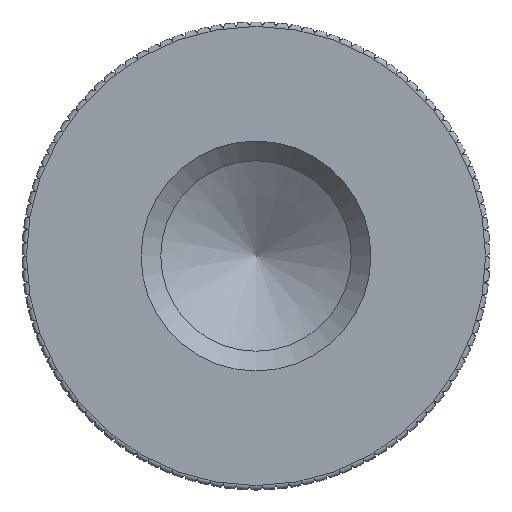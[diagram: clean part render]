
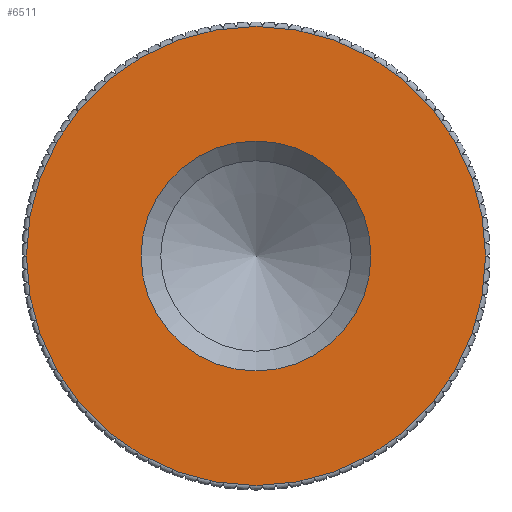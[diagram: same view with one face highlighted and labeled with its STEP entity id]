
A CAD part, front view. The second image highlights one B-rep face of the part: STEP entity #6511.
In plain terms, the highlighted planar face has unit normal (0, -1, 0).
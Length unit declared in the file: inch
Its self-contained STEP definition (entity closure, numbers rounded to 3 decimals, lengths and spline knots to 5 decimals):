
#19=FACE_BOUND('',#1483,.T.);
#686=PLANE('',#7104);
#1138=FACE_OUTER_BOUND('',#1482,.T.);
#1482=EDGE_LOOP('',(#6132,#6133));
#1483=EDGE_LOOP('',(#6134,#6135));
#2166=CIRCLE('',#6539,0.156);
#2167=CIRCLE('',#6540,0.156);
#2284=CIRCLE('',#6662,0.3115);
#2397=CIRCLE('',#6775,0.3115);
#2416=VERTEX_POINT('',#8660);
#2417=VERTEX_POINT('',#8661);
#2756=VERTEX_POINT('',#11348);
#2757=VERTEX_POINT('',#11349);
#3102=EDGE_CURVE('',#2416,#2417,#2166,.T.);
#3103=EDGE_CURVE('',#2417,#2416,#2167,.T.);
#3447=EDGE_CURVE('',#2756,#2757,#2284,.T.);
#3778=EDGE_CURVE('',#2757,#2756,#2397,.T.);
#6132=ORIENTED_EDGE('',*,*,#3447,.F.);
#6133=ORIENTED_EDGE('',*,*,#3778,.F.);
#6134=ORIENTED_EDGE('',*,*,#3102,.T.);
#6135=ORIENTED_EDGE('',*,*,#3103,.T.);
#6511=ADVANCED_FACE('',(#1138,#19),#686,.T.);
#6539=AXIS2_PLACEMENT_3D('',#8662,#7139,#7140);
#6540=AXIS2_PLACEMENT_3D('',#8663,#7141,#7142);
#6662=AXIS2_PLACEMENT_3D('',#11350,#7390,#7391);
#6775=AXIS2_PLACEMENT_3D('',#13971,#7616,#7617);
#7104=AXIS2_PLACEMENT_3D('',#14627,#8601,#8602);
#7139=DIRECTION('center_axis',(0.,1.,0.));
#7140=DIRECTION('ref_axis',(0.,0.,-1.));
#7141=DIRECTION('center_axis',(0.,1.,0.));
#7142=DIRECTION('ref_axis',(0.,0.,-1.));
#7390=DIRECTION('center_axis',(0.,1.,0.));
#7391=DIRECTION('ref_axis',(0.,0.,1.));
#7616=DIRECTION('center_axis',(0.,1.,0.));
#7617=DIRECTION('ref_axis',(0.,0.,1.));
#8601=DIRECTION('center_axis',(0.,-1.,0.));
#8602=DIRECTION('ref_axis',(0.,0.,-1.));
#8660=CARTESIAN_POINT('',(0.,0.,-0.156));
#8661=CARTESIAN_POINT('',(0.,0.,0.156));
#8662=CARTESIAN_POINT('Origin',(0.,0.,0.));
#8663=CARTESIAN_POINT('Origin',(0.,0.,0.));
#11348=CARTESIAN_POINT('',(0.,0.,-0.3115));
#11349=CARTESIAN_POINT('',(0.,0.,0.3115));
#11350=CARTESIAN_POINT('Origin',(0.,0.,0.));
#13971=CARTESIAN_POINT('Origin',(0.,0.,0.));
#14627=CARTESIAN_POINT('Origin',(0.,0.,0.));
